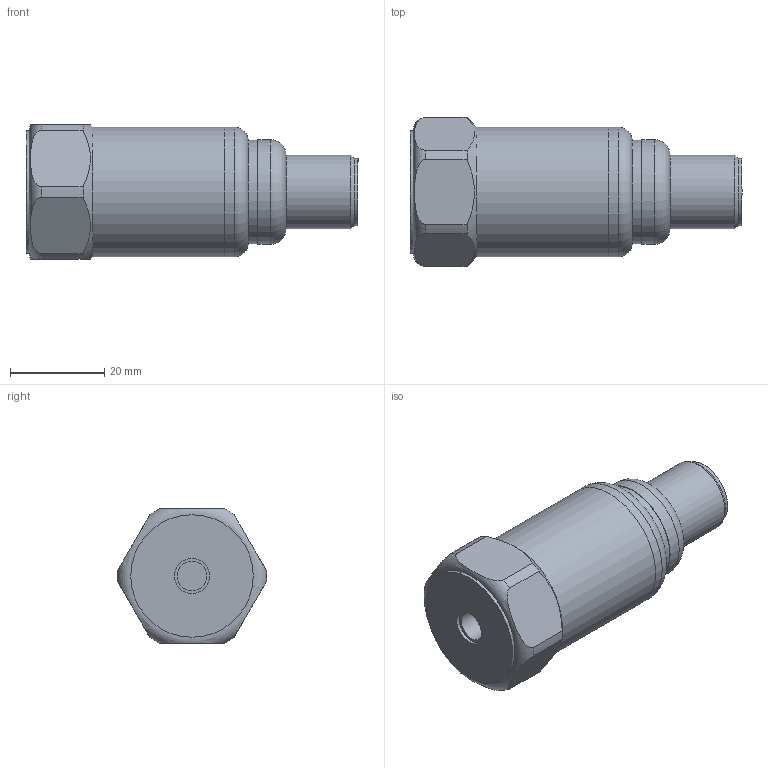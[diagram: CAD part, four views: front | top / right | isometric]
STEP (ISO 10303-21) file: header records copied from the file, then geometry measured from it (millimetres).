
FILE_DESCRIPTION(/* description */ (''),/* implementation_level */ '2;1');
FILE_NAME(/* name */ 'Z:\Engineering\Drawings\3D Library\Assemblies\Website\HS-420XXX5001.stp',/* time_stamp */ '2023-04-05T21:27:45+01:00',/* author */ ('Ricardo.Peneda'),/* organization */ (''),/* preprocessor_version */ 'ST-DEVELOPER v18.1',/* originating_system */ 'Autodesk Inventor 2021',/* authorisation */ '');
FILE_SCHEMA (('AUTOMOTIVE_DESIGN { 1 0 10303 214 3 1 1 }'));
Length unit declared in the file: inch
Products named in the file (1): HS-420XXX5001_Shrinkwrap_1
Bounding box: 70.47 x 31.69 x 28.5 mm (x, y, z)
Volume: 15557.3 mm3; surface area: 11751.6 mm2
Topology: 3 solids, 3 shells, 48 faces, 127 edges, 92 vertices
Faces by surface type: cylinder 21, plane 19, cone 4, torus 4
Full cylindrical faces by diameter (mm): 6.3 x1, 7.5 x1, 11.37 x1, 14.28 x1, 15.7 x1, 19 x1, 20 x1, 22 x1, 22.2 x1, 23.3 x1, 25.3 x2, 26 x1, 27.5 x2
Entity records: 1773 total; most frequent: CARTESIAN_POINT 414, DIRECTION 293, ORIENTED_EDGE 254, AXIS2_PLACEMENT_3D 131, EDGE_CURVE 127, VERTEX_POINT 92, CIRCLE 82, EDGE_LOOP 57
